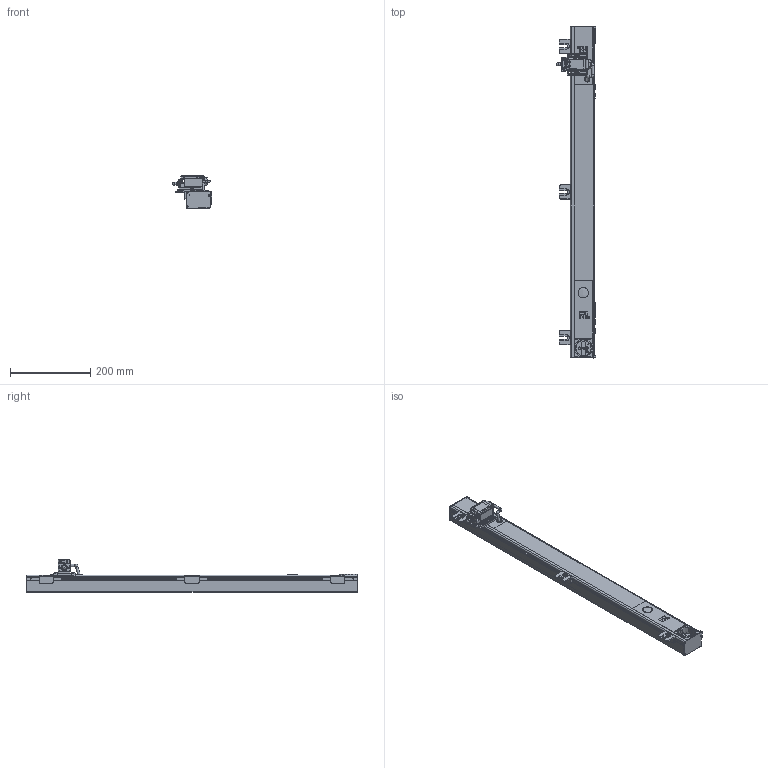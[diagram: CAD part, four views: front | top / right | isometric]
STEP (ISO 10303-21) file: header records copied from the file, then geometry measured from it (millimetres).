
FILE_DESCRIPTION(/* description */ (''),/* implementation_level */ '2;1');
FILE_NAME(/* name */ '\\File-richter.richter.local\konstruktion\Zeichnungsverwaltung\_Zeichnungen_und_3D_Kpl\825\Step\111437_LED-A-825-SK-PK-E-R-VX.stp',/* time_stamp */ '2024-08-27T10:50:04+02:00',/* author */ ('cad'),/* organization */ (''),/* preprocessor_version */ 'ST-DEVELOPER v15.6',/* originating_system */ 'Autodesk Inventor 2015',/* authorisation */ '');
FILE_SCHEMA (('AUTOMOTIVE_DESIGN { 1 0 10303 214 3 1 1 }'));
Products named in the file (1): 111437_LED-A-825-SK-PK-E-R-VX_Shrinkwrap_1
Bounding box: 97.2 x 825 x 81.5 mm (x, y, z)
Surface area: 323750 mm2 (no closed solid volume)
Topology: 0 solids, 113 shells, 2577 faces, 8602 edges, 6091 vertices
Faces by surface type: plane 2006, cylinder 422, bspline 64, cone 56, sphere 26, torus 3
Full cylindrical faces by diameter (mm): 3.95 x1, 6 x3, 8 x1, 24 x1
Entity records: 96633 total; most frequent: CARTESIAN_POINT 20969, ORIENTED_EDGE 15014, DIRECTION 14763, EDGE_CURVE 8564, LINE 7045, VECTOR 7045, VERTEX_POINT 6083, AXIS2_PLACEMENT_3D 3859
